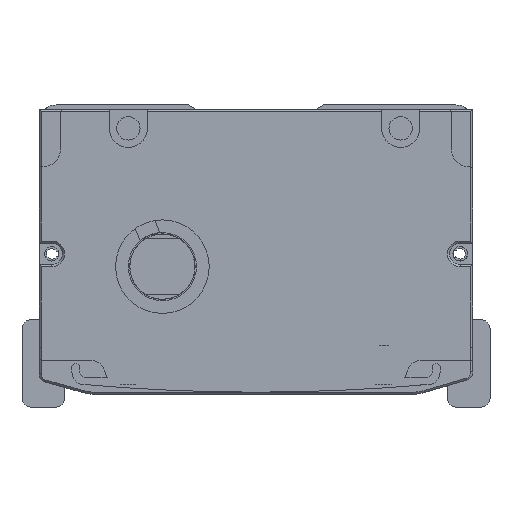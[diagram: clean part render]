
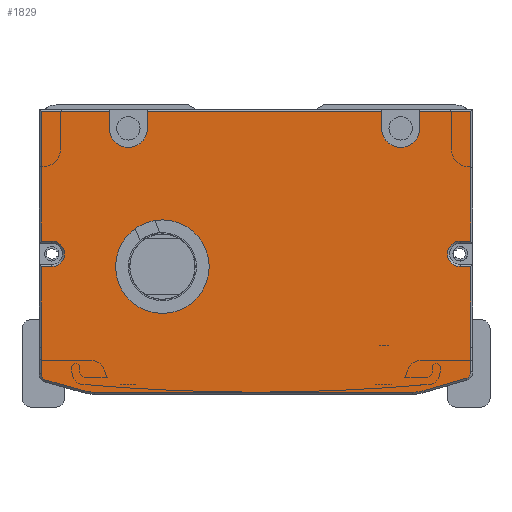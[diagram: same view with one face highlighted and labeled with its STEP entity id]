
A CAD part, front view. The second image highlights one B-rep face of the part: STEP entity #1829.
In plain terms, the highlighted planar face has unit normal (0, -1, 0).
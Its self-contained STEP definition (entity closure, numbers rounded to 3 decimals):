
#1066=FACE_BOUND('',#3755,.T.);
#1067=FACE_BOUND('',#3756,.T.);
#1829=ADVANCED_FACE('',(#1066,#1067),#2572,.F.);
#2572=PLANE('',#15094);
#3755=EDGE_LOOP('',(#6793));
#3756=EDGE_LOOP('',(#6794,#6795,#6796,#6797,#6798,#6799,#6800,#6801,#6802,
#6803,#6804,#6805,#6806,#6807,#6808,#6809,#6810,#6811,#6812,#6813,#6814,
#6815,#6816,#6817,#6818,#6819,#6820,#6821));
#4833=CIRCLE('',#15005,3.);
#4836=CIRCLE('',#15013,3.);
#4839=CIRCLE('',#15025,1.5);
#4841=CIRCLE('',#15029,9.5);
#4843=CIRCLE('',#15033,9.5);
#4845=CIRCLE('',#15037,1.5);
#4850=CIRCLE('',#15052,4.5);
#4854=CIRCLE('',#15058,4.5);
#4855=CIRCLE('',#15067,11.);
#6793=ORIENTED_EDGE('',*,*,#11464,.F.);
#6794=ORIENTED_EDGE('',*,*,#11358,.T.);
#6795=ORIENTED_EDGE('',*,*,#11254,.T.);
#6796=ORIENTED_EDGE('',*,*,#11445,.T.);
#6797=ORIENTED_EDGE('',*,*,#11258,.T.);
#6798=ORIENTED_EDGE('',*,*,#11493,.T.);
#6799=ORIENTED_EDGE('',*,*,#11264,.T.);
#6800=ORIENTED_EDGE('',*,*,#11441,.T.);
#6801=ORIENTED_EDGE('',*,*,#11268,.T.);
#6802=ORIENTED_EDGE('',*,*,#11494,.T.);
#6803=ORIENTED_EDGE('',*,*,#11362,.T.);
#6804=ORIENTED_EDGE('',*,*,#11368,.T.);
#6805=ORIENTED_EDGE('',*,*,#11371,.T.);
#6806=ORIENTED_EDGE('',*,*,#11374,.T.);
#6807=ORIENTED_EDGE('',*,*,#11376,.T.);
#6808=ORIENTED_EDGE('',*,*,#11406,.T.);
#6809=ORIENTED_EDGE('',*,*,#11410,.T.);
#6810=ORIENTED_EDGE('',*,*,#11413,.T.);
#6811=ORIENTED_EDGE('',*,*,#11416,.T.);
#6812=ORIENTED_EDGE('',*,*,#11419,.T.);
#6813=ORIENTED_EDGE('',*,*,#11422,.T.);
#6814=ORIENTED_EDGE('',*,*,#11425,.T.);
#6815=ORIENTED_EDGE('',*,*,#11427,.T.);
#6816=ORIENTED_EDGE('',*,*,#11404,.T.);
#6817=ORIENTED_EDGE('',*,*,#11394,.T.);
#6818=ORIENTED_EDGE('',*,*,#11391,.T.);
#6819=ORIENTED_EDGE('',*,*,#11388,.T.);
#6820=ORIENTED_EDGE('',*,*,#11385,.T.);
#6821=ORIENTED_EDGE('',*,*,#11380,.T.);
#9735=VERTEX_POINT('',#22311);
#9736=VERTEX_POINT('',#22313);
#9739=VERTEX_POINT('',#22320);
#9740=VERTEX_POINT('',#22322);
#9745=VERTEX_POINT('',#22333);
#9746=VERTEX_POINT('',#22335);
#9749=VERTEX_POINT('',#22342);
#9750=VERTEX_POINT('',#22344);
#9808=VERTEX_POINT('',#22530);
#9811=VERTEX_POINT('',#22538);
#9812=VERTEX_POINT('',#22539);
#9817=VERTEX_POINT('',#22550);
#9819=VERTEX_POINT('',#22556);
#9820=VERTEX_POINT('',#22561);
#9822=VERTEX_POINT('',#22567);
#9825=VERTEX_POINT('',#22575);
#9827=VERTEX_POINT('',#22581);
#9829=VERTEX_POINT('',#22587);
#9831=VERTEX_POINT('',#22593);
#9833=VERTEX_POINT('',#22599);
#9840=VERTEX_POINT('',#22623);
#9841=VERTEX_POINT('',#22627);
#9844=VERTEX_POINT('',#22634);
#9846=VERTEX_POINT('',#22640);
#9848=VERTEX_POINT('',#22646);
#9850=VERTEX_POINT('',#22652);
#9852=VERTEX_POINT('',#22658);
#9854=VERTEX_POINT('',#22664);
#9866=VERTEX_POINT('',#22737);
#11254=EDGE_CURVE('',#9736,#9735,#12935,.T.);
#11258=EDGE_CURVE('',#9740,#9739,#12939,.T.);
#11264=EDGE_CURVE('',#9746,#9745,#12945,.T.);
#11268=EDGE_CURVE('',#9750,#9749,#12949,.T.);
#11358=EDGE_CURVE('',#9808,#9736,#13022,.T.);
#11362=EDGE_CURVE('',#9811,#9812,#13026,.T.);
#11368=EDGE_CURVE('',#9812,#9817,#13032,.T.);
#11371=EDGE_CURVE('',#9817,#9819,#4833,.T.);
#11374=EDGE_CURVE('',#9819,#9820,#13036,.T.);
#11376=EDGE_CURVE('',#9820,#9822,#13038,.T.);
#11380=EDGE_CURVE('',#9825,#9808,#13042,.T.);
#11385=EDGE_CURVE('',#9827,#9825,#13047,.T.);
#11388=EDGE_CURVE('',#9829,#9827,#4836,.T.);
#11391=EDGE_CURVE('',#9831,#9829,#13051,.T.);
#11394=EDGE_CURVE('',#9833,#9831,#13054,.T.);
#11404=EDGE_CURVE('',#9840,#9833,#13062,.T.);
#11406=EDGE_CURVE('',#9822,#9841,#13064,.T.);
#11410=EDGE_CURVE('',#9841,#9844,#4839,.T.);
#11413=EDGE_CURVE('',#9844,#9846,#13069,.T.);
#11416=EDGE_CURVE('',#9846,#9848,#4841,.T.);
#11419=EDGE_CURVE('',#9848,#9850,#13073,.T.);
#11422=EDGE_CURVE('',#9850,#9852,#4843,.T.);
#11425=EDGE_CURVE('',#9852,#9854,#13077,.T.);
#11427=EDGE_CURVE('',#9854,#9840,#4845,.T.);
#11441=EDGE_CURVE('',#9745,#9750,#4850,.T.);
#11445=EDGE_CURVE('',#9735,#9740,#4854,.T.);
#11464=EDGE_CURVE('',#9866,#9866,#4855,.T.);
#11493=EDGE_CURVE('',#9739,#9746,#13128,.T.);
#11494=EDGE_CURVE('',#9749,#9811,#13129,.T.);
#12935=LINE('',#22312,#13881);
#12939=LINE('',#22321,#13885);
#12945=LINE('',#22334,#13891);
#12949=LINE('',#22343,#13895);
#13022=LINE('',#22529,#13968);
#13026=LINE('',#22537,#13972);
#13032=LINE('',#22551,#13978);
#13036=LINE('',#22563,#13982);
#13038=LINE('',#22566,#13984);
#13042=LINE('',#22574,#13988);
#13047=LINE('',#22584,#13993);
#13051=LINE('',#22596,#13997);
#13054=LINE('',#22602,#14000);
#13062=LINE('',#22622,#14008);
#13064=LINE('',#22626,#14010);
#13069=LINE('',#22641,#14015);
#13073=LINE('',#22653,#14019);
#13077=LINE('',#22665,#14023);
#13128=LINE('',#22799,#14074);
#13129=LINE('',#22800,#14075);
#13881=VECTOR('',#17317,1.);
#13885=VECTOR('',#17323,1.);
#13891=VECTOR('',#17331,1.);
#13895=VECTOR('',#17337,1.);
#13968=VECTOR('',#17504,1.);
#13972=VECTOR('',#17510,1.);
#13978=VECTOR('',#17518,1.);
#13982=VECTOR('',#17530,1.);
#13984=VECTOR('',#17534,1.);
#13988=VECTOR('',#17540,1.);
#13993=VECTOR('',#17547,1.);
#13997=VECTOR('',#17559,1.);
#14000=VECTOR('',#17564,1.);
#14008=VECTOR('',#17586,1.);
#14010=VECTOR('',#17590,1.);
#14015=VECTOR('',#17603,1.);
#14019=VECTOR('',#17615,1.);
#14023=VECTOR('',#17627,1.);
#14074=VECTOR('',#17794,1.);
#14075=VECTOR('',#17795,1.);
#15005=AXIS2_PLACEMENT_3D('',#22557,#17523,#17524);
#15013=AXIS2_PLACEMENT_3D('',#22590,#17553,#17554);
#15025=AXIS2_PLACEMENT_3D('',#22635,#17596,#17597);
#15029=AXIS2_PLACEMENT_3D('',#22647,#17608,#17609);
#15033=AXIS2_PLACEMENT_3D('',#22659,#17620,#17621);
#15037=AXIS2_PLACEMENT_3D('',#22668,#17631,#17632);
#15052=AXIS2_PLACEMENT_3D('',#22694,#17670,#17671);
#15058=AXIS2_PLACEMENT_3D('',#22702,#17682,#17683);
#15067=AXIS2_PLACEMENT_3D('',#22736,#17718,#17719);
#15094=AXIS2_PLACEMENT_3D('',#22801,#17796,#17797);
#17317=DIRECTION('',(0.,0.,-1.));
#17323=DIRECTION('',(0.,0.,1.));
#17331=DIRECTION('',(0.,0.,-1.));
#17337=DIRECTION('',(0.,0.,1.));
#17504=DIRECTION('',(-1.,0.,0.));
#17510=DIRECTION('',(0.,0.,-1.));
#17518=DIRECTION('',(1.,0.,0.));
#17523=DIRECTION('',(0.,1.,0.));
#17524=DIRECTION('',(0.,0.,1.));
#17530=DIRECTION('',(-1.,0.,0.));
#17534=DIRECTION('',(0.,0.,-1.));
#17540=DIRECTION('',(0.,0.,1.));
#17547=DIRECTION('',(1.,0.,0.));
#17553=DIRECTION('',(0.,1.,0.));
#17554=DIRECTION('',(0.,0.,1.));
#17559=DIRECTION('',(-1.,0.,0.));
#17564=DIRECTION('',(0.,0.,1.));
#17586=DIRECTION('',(0.,0.,1.));
#17590=DIRECTION('',(0.,0.,-1.));
#17596=DIRECTION('',(0.,-1.,0.));
#17597=DIRECTION('',(0.,0.,1.));
#17603=DIRECTION('',(0.963,0.,-0.269));
#17608=DIRECTION('',(0.,-1.,0.));
#17609=DIRECTION('',(0.,0.,1.));
#17615=DIRECTION('',(1.,0.,0.));
#17620=DIRECTION('',(0.,-1.,0.));
#17621=DIRECTION('',(0.,0.,1.));
#17627=DIRECTION('',(0.959,0.,0.282));
#17631=DIRECTION('',(0.,-1.,0.));
#17632=DIRECTION('',(0.,0.,1.));
#17670=DIRECTION('',(0.,1.,0.));
#17671=DIRECTION('',(0.,0.,1.));
#17682=DIRECTION('',(0.,1.,0.));
#17683=DIRECTION('',(0.,0.,1.));
#17718=DIRECTION('',(0.,-1.,0.));
#17719=DIRECTION('',(0.,0.,1.));
#17794=DIRECTION('',(-1.,0.,0.));
#17795=DIRECTION('',(-1.,0.,0.));
#17796=DIRECTION('',(0.,1.,0.));
#17797=DIRECTION('',(1.,0.,0.));
#22311=CARTESIAN_POINT('',(35.308,-857.5,-5.5));
#22312=CARTESIAN_POINT('',(35.308,-857.5,-1.));
#22313=CARTESIAN_POINT('',(35.308,-857.5,-1.5));
#22320=CARTESIAN_POINT('',(26.308,-857.5,-1.5));
#22321=CARTESIAN_POINT('',(26.308,-857.5,-1.));
#22322=CARTESIAN_POINT('',(26.308,-857.5,-5.5));
#22333=CARTESIAN_POINT('',(-28.692,-857.5,-5.5));
#22334=CARTESIAN_POINT('',(-28.692,-857.5,-1.));
#22335=CARTESIAN_POINT('',(-28.692,-857.5,-1.5));
#22342=CARTESIAN_POINT('',(-37.692,-857.5,-1.5));
#22343=CARTESIAN_POINT('',(-37.692,-857.5,-1.));
#22344=CARTESIAN_POINT('',(-37.692,-857.5,-5.5));
#22529=CARTESIAN_POINT('',(-53.692,-857.5,-1.5));
#22530=CARTESIAN_POINT('',(47.308,-857.5,-1.5));
#22537=CARTESIAN_POINT('',(-53.692,-857.5,-32.5));
#22538=CARTESIAN_POINT('',(-53.692,-857.5,-1.5));
#22539=CARTESIAN_POINT('',(-53.692,-857.5,-32.));
#22550=CARTESIAN_POINT('',(-51.192,-857.5,-32.));
#22551=CARTESIAN_POINT('',(-3.192,-857.5,-32.));
#22556=CARTESIAN_POINT('',(-51.192,-857.5,-38.));
#22557=CARTESIAN_POINT('',(-51.192,-857.5,-35.));
#22561=CARTESIAN_POINT('',(-53.692,-857.5,-38.));
#22563=CARTESIAN_POINT('',(-3.192,-857.5,-38.));
#22566=CARTESIAN_POINT('',(-53.692,-857.5,-57.));
#22567=CARTESIAN_POINT('',(-53.692,-857.5,-57.));
#22574=CARTESIAN_POINT('',(47.308,-857.5,-1.5));
#22575=CARTESIAN_POINT('',(47.308,-857.5,-32.));
#22581=CARTESIAN_POINT('',(44.808,-857.5,-32.));
#22584=CARTESIAN_POINT('',(-3.192,-857.5,-32.));
#22587=CARTESIAN_POINT('',(44.808,-857.5,-38.));
#22590=CARTESIAN_POINT('',(44.808,-857.5,-35.));
#22593=CARTESIAN_POINT('',(47.308,-857.5,-38.));
#22596=CARTESIAN_POINT('',(-3.192,-857.5,-38.));
#22599=CARTESIAN_POINT('',(47.308,-857.5,-57.));
#22602=CARTESIAN_POINT('',(47.308,-857.5,-37.5));
#22622=CARTESIAN_POINT('',(47.308,-857.5,-37.5));
#22623=CARTESIAN_POINT('',(47.308,-857.5,-62.758));
#22626=CARTESIAN_POINT('',(-53.692,-857.5,-59.712));
#22627=CARTESIAN_POINT('',(-53.692,-857.5,-63.212));
#22634=CARTESIAN_POINT('',(-52.596,-857.5,-64.657));
#22635=CARTESIAN_POINT('',(-52.192,-857.5,-63.212));
#22640=CARTESIAN_POINT('',(-43.674,-857.5,-67.15));
#22641=CARTESIAN_POINT('',(-43.674,-857.5,-67.15));
#22646=CARTESIAN_POINT('',(-41.118,-857.5,-67.5));
#22647=CARTESIAN_POINT('',(-41.118,-857.5,-58.));
#22652=CARTESIAN_POINT('',(33.631,-857.5,-67.5));
#22653=CARTESIAN_POINT('',(33.631,-857.5,-67.5));
#22658=CARTESIAN_POINT('',(36.312,-857.5,-67.114));
#22659=CARTESIAN_POINT('',(33.631,-857.5,-58.));
#22664=CARTESIAN_POINT('',(46.231,-857.5,-64.197));
#22665=CARTESIAN_POINT('',(46.231,-857.5,-64.197));
#22668=CARTESIAN_POINT('',(45.808,-857.5,-62.758));
#22694=CARTESIAN_POINT('',(-33.192,-857.5,-5.5));
#22702=CARTESIAN_POINT('',(30.808,-857.5,-5.5));
#22736=CARTESIAN_POINT('',(-25.192,-857.5,-38.));
#22737=CARTESIAN_POINT('',(-25.192,-857.5,-27.));
#22799=CARTESIAN_POINT('',(-53.692,-857.5,-1.5));
#22800=CARTESIAN_POINT('',(-53.692,-857.5,-1.5));
#22801=CARTESIAN_POINT('',(-3.192,-857.5,-1.));
